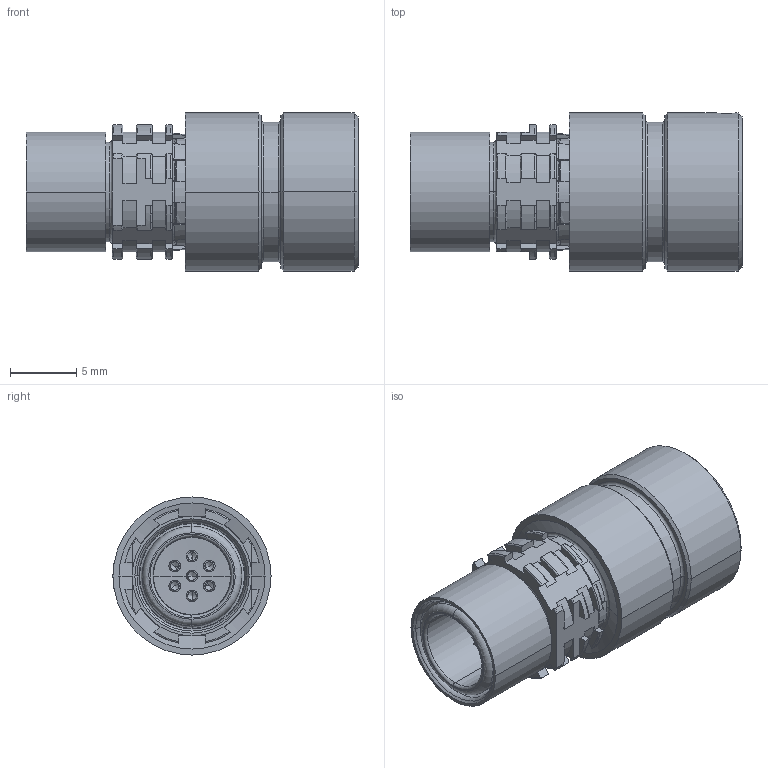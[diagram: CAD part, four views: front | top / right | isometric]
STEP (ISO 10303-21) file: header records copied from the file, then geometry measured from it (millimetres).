
FILE_DESCRIPTION((''),'2;1');
FILE_NAME('K10Y_R-P07XDD0-R000-A_EXTERN--_ASM','2020-10-26T14:45:20',('EUnterhaslberger'),(''),'CREO PARAMETRIC BY PTC INC, 2018300','CREO PARAMETRIC BY PTC INC, 2018300','');
FILE_SCHEMA(('AP242_MANAGED_MODEL_BASED_3D_ENGINEERING_MIM_LF { 1 0 10303 442 1 1 4 }'));
Length unit declared in the file: millimetre
Products named in the file (4): TEMP_SW_STEP_MONOBLOCK_1_1; TEMP_SW_STEP_MONOBLOCK_1_2; TEMP_SW_STEP_MONOBLOCK_1_ASM; K10Y_R-P07XDD0-R000-A_EXTERN--_ASM
Assembly tree (3 placements, depth 3):
  K10Y_R-P07XDD0-R000-A_EXTERN--_ASM
    TEMP_SW_STEP_MONOBLOCK_1_ASM
      TEMP_SW_STEP_MONOBLOCK_1_1
      TEMP_SW_STEP_MONOBLOCK_1_2
Bounding box: 25 x 11.9 x 11.9 mm (x, y, z)
Volume: 1529.5 mm3; surface area: 2242.5 mm2
Topology: 2 solids, 2 shells, 564 faces, 1612 edges, 1054 vertices
Faces by surface type: cylinder 176, plane 175, torus 113, cone 84, sphere 16
Entity records: 23861 total; most frequent: CARTESIAN_POINT 4875, ORIENTED_EDGE 3164, DIRECTION 3163, EDGE_CURVE 1582, AXIS2_PLACEMENT_3D 1270, VERTEX_POINT 1054, CIRCLE 697, VECTOR 623
